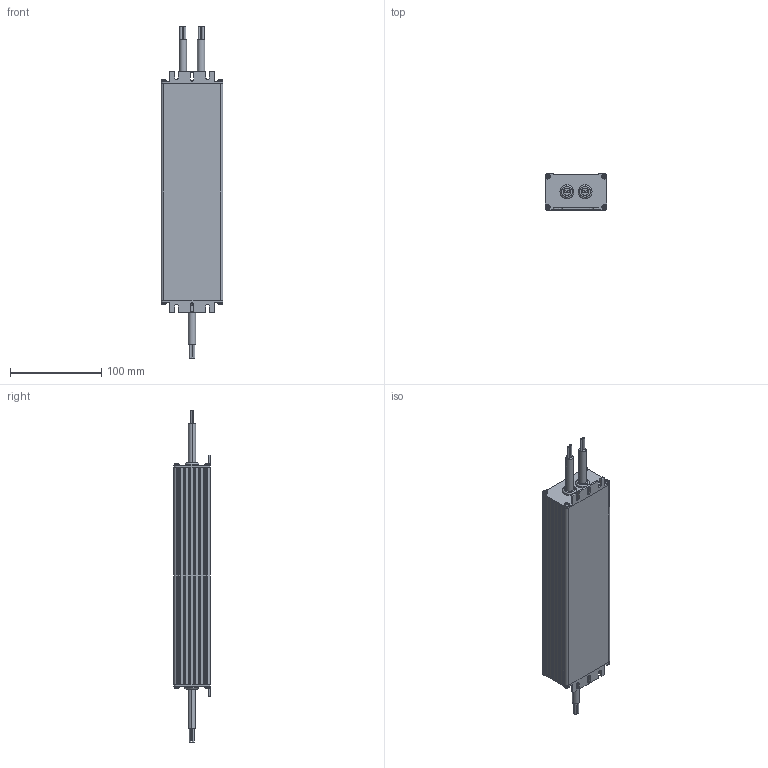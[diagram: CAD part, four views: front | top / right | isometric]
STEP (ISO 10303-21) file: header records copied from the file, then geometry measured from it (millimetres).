
FILE_DESCRIPTION((''),'2;1');
FILE_NAME('250W_ASM','2019-05-10T',('Arbiter.he'),(''),'PRO/ENGINEER BY PARAMETRIC TECHNOLOGY CORPORATION, 2010280','PRO/ENGINEER BY PARAMETRIC TECHNOLOGY CORPORATION, 2010280','');
FILE_SCHEMA(('AUTOMOTIVE_DESIGN { 1 0 10303 214 1 1 1 1 }'));
Length unit declared in the file: millimetre
Products named in the file (7): 250W; CEGAI; CEGAI2; CABLE; CABLE2; SCREW-M3X6; 250W_ASM
Assembly tree (14 placements, depth 2):
  250W_ASM
    250W
    CEGAI
    CEGAI2
    CABLE  x2
    CABLE2
    SCREW-M3X6  x8
Bounding box: 68 x 39.5 x 364.16 mm (x, y, z)
Volume: 104505.5 mm3; surface area: 127526.5 mm2
Topology: 14 solids, 14 shells, 856 faces, 2224 edges, 1420 vertices
Faces by surface type: cylinder 384, bspline 224, plane 212, torus 22, cone 14
Entity records: 17737 total; most frequent: CARTESIAN_POINT 7247, DIRECTION 2113, ORIENTED_EDGE 2106, EDGE_CURVE 1053, AXIS2_PLACEMENT_3D 758, VERTEX_POINT 692, VECTOR 597, LINE 597
